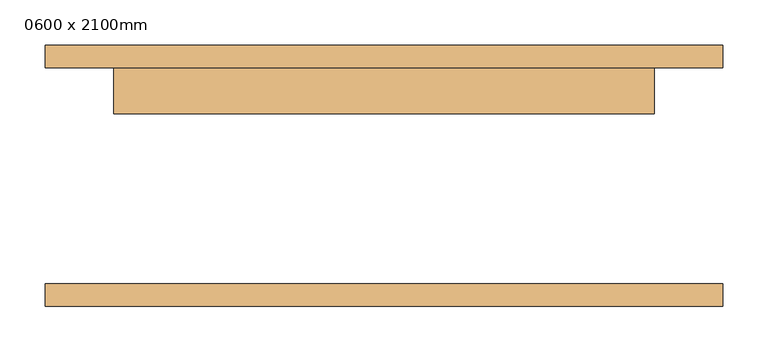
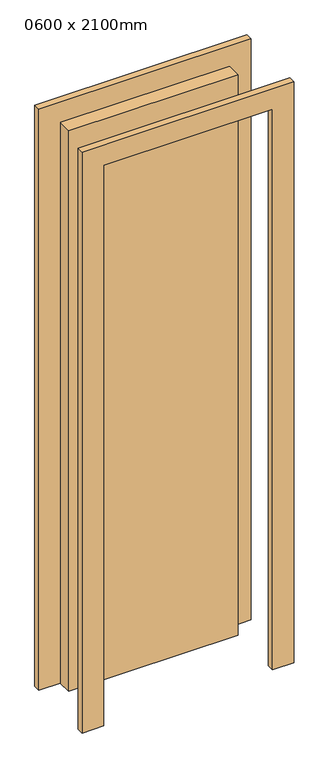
"""IFC4 building model written with IfcOpenShell, lengths in millimetres: door geometry, M_Folha única : 0600 x 2100mm."""

from ifc_helpers import new_model, si_unit, frame, origin, origin_with_axes, place, context, project, spatial, polyline, outline, extrude, source, transform, mapped, element, save


def door_0600_x_2100mm_1f371edd(model_context):
    return source(origin(), model_context, "Body", "SweptSolid", [
        extrude(outline(polyline([(2176.0, -376.0), (0.0, -376.0), (0.0, -300.0), (2100.0, -300.0), (2100.0, 300.0), (0.0, 300.0), (0.0, 376.0), (2176.0, 376.0), (2176.0, -376.0)])), frame((0.0, 120.0, 0.0), z_axis=(0.0, 1.0, 0.0), x_axis=(0.0, 0.0, 1.0)), (0.0, 0.0, 1.0), 25.0),
        extrude(outline(polyline([(2176.0, 376.0), (2176.0, -376.0), (0.0, -376.0), (0.0, -300.0), (2100.0, -300.0), (2100.0, 300.0), (0.0, 300.0), (0.0, 376.0), (2176.0, 376.0)])), frame((0.0, -145.0, 0.0), z_axis=(0.0, 1.0, 0.0), x_axis=(0.0, 0.0, 1.0)), (0.0, 0.0, 1.0), 25.0),
        extrude(outline(polyline([(300.0, 69.0), (-300.0, 69.0), (-300.0, 120.0), (300.0, 120.0), (300.0, 69.0)])), origin_with_axes(), (0.0, 0.0, 1.0), 2100.0),
    ])


if __name__ == "__main__":
    model = new_model("IFC4")
    model_context = context("Model", 3, world=origin())
    ifc_project = project(units=[si_unit("LENGTHUNIT", "METRE", prefix="MILLI")], contexts=[model_context])
    site = spatial("IfcSite", under=ifc_project)
    building = spatial("IfcBuilding", under=site)
    placement = place(None, origin())
    door_0600_x_2100mm_shape = door_0600_x_2100mm_1f371edd(model_context)
    element("IfcDoor", 1, ObjectType="M_Folha única : 0600 x 2100mm", at=placement, inside=building, context=model_context, shape_type="MappedRepresentation", body=[
        mapped(door_0600_x_2100mm_shape, transform((0.0, 0.0, 0.0), x_axis=(1.0, 0.0, 0.0), y_axis=(0.0, 1.0, 0.0), z_axis=(0.0, 0.0, 1.0))),
    ])
    save(model, "model.ifc")
